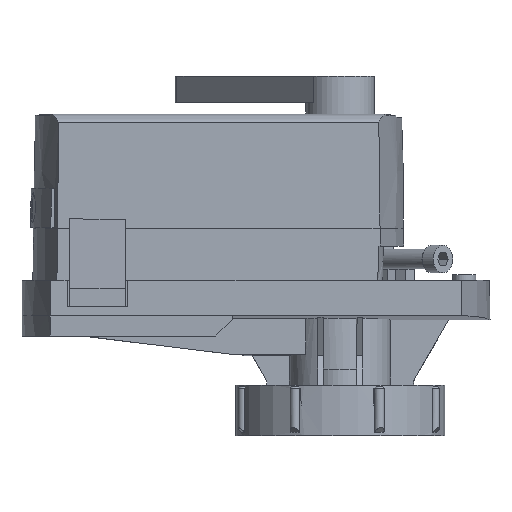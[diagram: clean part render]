
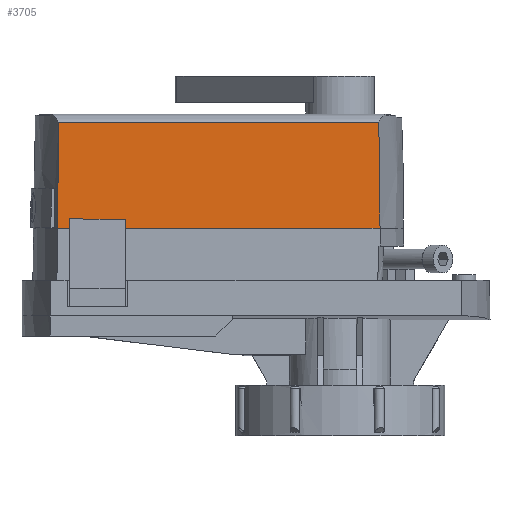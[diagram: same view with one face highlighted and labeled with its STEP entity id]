
A CAD part, front view. The second image highlights one B-rep face of the part: STEP entity #3705.
In plain terms, the highlighted planar face has unit normal (0, -1, 0.018).
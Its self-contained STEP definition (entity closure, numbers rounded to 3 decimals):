
#3101=FACE_OUTER_BOUND('',#4517,.T.);
#3156=B_SPLINE_CURVE_WITH_KNOTS('',3,(#13055,#13056,#13057,#13058),
 .UNSPECIFIED.,.F.,.F.,(4,4),(0.,1.),.UNSPECIFIED.);
#3163=B_SPLINE_CURVE_WITH_KNOTS('',3,(#13141,#13142,#13143,#13144),
 .UNSPECIFIED.,.F.,.F.,(4,4),(0.,1.),.UNSPECIFIED.);
#3164=B_SPLINE_CURVE_WITH_KNOTS('',3,(#13146,#13147,#13148,#13149),
 .UNSPECIFIED.,.F.,.F.,(4,4),(0.,1.),.UNSPECIFIED.);
#3705=ADVANCED_FACE('',(#3101),#3960,.T.);
#3960=PLANE('',#10799);
#4517=EDGE_LOOP('',(#6862,#6863,#6864,#6865,#6866,#6867,#6868,#6869,#6870));
#6862=ORIENTED_EDGE('',*,*,#7887,.F.);
#6863=ORIENTED_EDGE('',*,*,#7906,.F.);
#6864=ORIENTED_EDGE('',*,*,#8359,.F.);
#6865=ORIENTED_EDGE('',*,*,#7941,.T.);
#6866=ORIENTED_EDGE('',*,*,#7940,.T.);
#6867=ORIENTED_EDGE('',*,*,#7893,.F.);
#6868=ORIENTED_EDGE('',*,*,#8137,.T.);
#6869=ORIENTED_EDGE('',*,*,#8232,.T.);
#6870=ORIENTED_EDGE('',*,*,#7922,.F.);
#7124=VERTEX_POINT('',#12971);
#7130=VERTEX_POINT('',#12996);
#7132=VERTEX_POINT('',#12999);
#7137=VERTEX_POINT('',#13013);
#7148=VERTEX_POINT('',#13059);
#7155=VERTEX_POINT('',#13092);
#7175=VERTEX_POINT('',#13145);
#7176=VERTEX_POINT('',#13150);
#7323=VERTEX_POINT('',#13776);
#7887=EDGE_CURVE('',#7130,#7132,#8974,.T.);
#7893=EDGE_CURVE('',#7137,#7124,#8979,.T.);
#7906=EDGE_CURVE('',#7148,#7130,#3156,.T.);
#7922=EDGE_CURVE('',#7132,#7155,#8990,.T.);
#7940=EDGE_CURVE('',#7175,#7124,#3163,.T.);
#7941=EDGE_CURVE('',#7176,#7175,#3164,.T.);
#8137=EDGE_CURVE('',#7137,#7323,#9117,.T.);
#8232=EDGE_CURVE('',#7323,#7155,#9168,.T.);
#8359=EDGE_CURVE('',#7176,#7148,#9246,.T.);
#8974=LINE('',#12998,#9587);
#8979=LINE('',#13014,#9592);
#8990=LINE('',#13102,#9603);
#9117=LINE('',#13777,#9730);
#9168=LINE('',#14249,#9781);
#9246=LINE('',#14572,#9859);
#9587=VECTOR('',#10955,1.);
#9592=VECTOR('',#10962,1.);
#9603=VECTOR('',#10995,1.);
#9730=VECTOR('',#11330,1.);
#9781=VECTOR('',#11479,1.);
#9859=VECTOR('',#11737,1.);
#10799=AXIS2_PLACEMENT_3D('',#16777,#12670,#12671);
#10955=DIRECTION('',(-1.,0.,0.));
#10962=DIRECTION('',(-1.,0.,0.));
#10995=DIRECTION('',(0.,0.017,1.));
#11330=DIRECTION('',(0.,0.017,1.));
#11479=DIRECTION('',(1.,0.,-0.009));
#11737=DIRECTION('',(1.,0.,0.));
#12670=DIRECTION('',(0.,-1.,0.017));
#12671=DIRECTION('',(0.,0.017,1.));
#12971=CARTESIAN_POINT('',(-86.429,-33.635,-6.85));
#12996=CARTESIAN_POINT('',(12.221,-33.635,-6.85));
#12998=CARTESIAN_POINT('',(-41.375,-33.635,-6.85));
#12999=CARTESIAN_POINT('',(-65.7,-33.635,-6.85));
#13013=CARTESIAN_POINT('',(-82.7,-33.635,-6.85));
#13014=CARTESIAN_POINT('',(-41.375,-33.635,-6.85));
#13055=CARTESIAN_POINT('',(11.859,-33.07,25.556));
#13056=CARTESIAN_POINT('',(11.98,-33.258,14.754));
#13057=CARTESIAN_POINT('',(12.1,-33.447,3.952));
#13058=CARTESIAN_POINT('',(12.221,-33.635,-6.85));
#13059=CARTESIAN_POINT('',(11.859,-33.07,25.556));
#13092=CARTESIAN_POINT('',(-65.7,-33.588,-4.169));
#13102=CARTESIAN_POINT('',(-65.7,-34.,-27.75));
#13141=CARTESIAN_POINT('',(-86.429,-33.635,-6.843));
#13142=CARTESIAN_POINT('',(-86.429,-33.635,-6.845));
#13143=CARTESIAN_POINT('',(-86.429,-33.635,-6.848));
#13144=CARTESIAN_POINT('',(-86.429,-33.635,-6.85));
#13145=CARTESIAN_POINT('',(-86.429,-33.635,-6.843));
#13146=CARTESIAN_POINT('',(-86.068,-33.07,25.556));
#13147=CARTESIAN_POINT('',(-86.189,-33.258,14.757));
#13148=CARTESIAN_POINT('',(-86.309,-33.447,3.957));
#13149=CARTESIAN_POINT('',(-86.429,-33.635,-6.843));
#13150=CARTESIAN_POINT('',(-86.068,-33.07,25.556));
#13776=CARTESIAN_POINT('',(-82.7,-33.586,-4.021));
#13777=CARTESIAN_POINT('',(-82.7,-34.,-27.75));
#14249=CARTESIAN_POINT('',(-41.171,-33.592,-4.383));
#14572=CARTESIAN_POINT('',(-90.,-33.07,25.556));
#16777=CARTESIAN_POINT('',(-41.375,-34.,-27.75));
